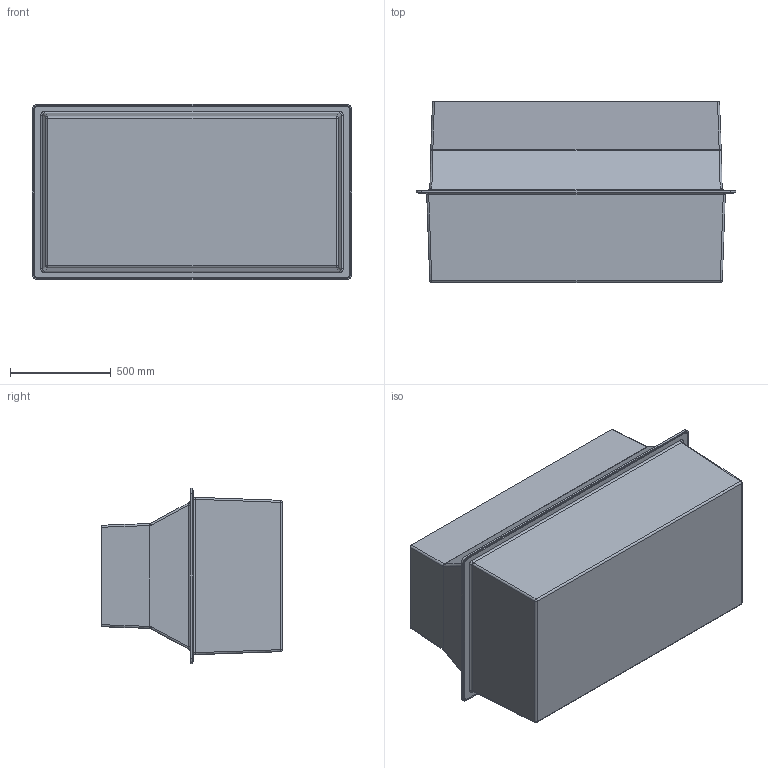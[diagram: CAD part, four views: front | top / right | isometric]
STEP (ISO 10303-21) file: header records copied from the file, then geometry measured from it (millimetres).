
FILE_DESCRIPTION (( 'STEP AP214' ), '1' );
FILE_NAME ('KP_DC1450.step', '2012-10-04T09:36:25', ( 'robinj' ), ( 'Microsoft' ), 'SwSTEP 2.0', 'SolidWorks 2012', '' );
FILE_SCHEMA (( 'AUTOMOTIVE_DESIGN' ));
Length unit declared in the file: millimetre
Products named in the file (1): KP_DC1450
Bounding box: 1584.18 x 897 x 870.18 mm (x, y, z)
Volume: 38306022.2 mm3; surface area: 10772566.5 mm2
Topology: 1 solids, 1 shells, 210 faces, 472 edges, 280 vertices
Faces by surface type: cylinder 80, plane 62, bspline 52, sphere 16
Entity records: 8085 total; most frequent: CARTESIAN_POINT 3759, ORIENTED_EDGE 944, DIRECTION 818, EDGE_CURVE 472, AXIS2_PLACEMENT_3D 303, VERTEX_POINT 280, EDGE_LOOP 226, LINE 212
